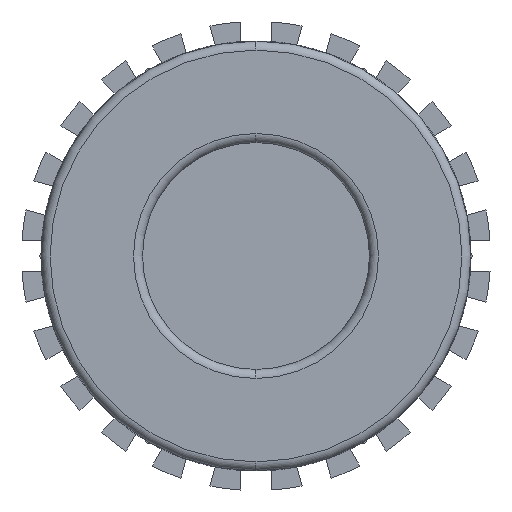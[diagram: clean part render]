
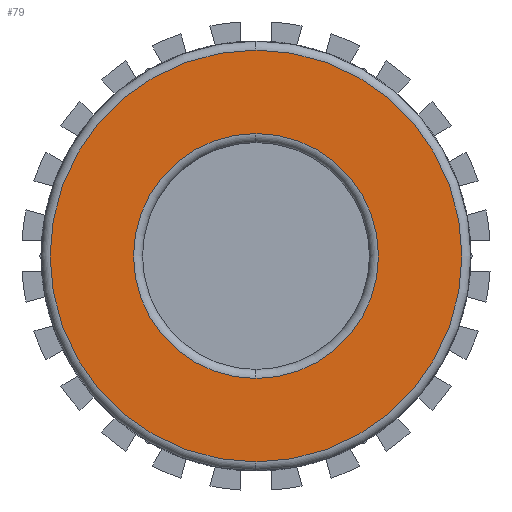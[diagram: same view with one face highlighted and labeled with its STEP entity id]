
A CAD part, left-side view. The second image highlights one B-rep face of the part: STEP entity #79.
In plain terms, the highlighted planar face has unit normal (-1, 0, 0).
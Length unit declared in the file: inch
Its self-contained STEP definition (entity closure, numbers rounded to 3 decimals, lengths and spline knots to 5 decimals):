
#79 = ADVANCED_FACE ( 'NONE', ( #3711, #3696 ), #2595, .F. ) ;
#163 = AXIS2_PLACEMENT_3D ( 'NONE', #2531, #2550, #2639 ) ;
#263 = AXIS2_PLACEMENT_3D ( 'NONE', #4182, #4174, #4183 ) ;
#273 = AXIS2_PLACEMENT_3D ( 'NONE', #2102, #2101, #2098 ) ;
#428 = AXIS2_PLACEMENT_3D ( 'NONE', #717, #718, #719 ) ;
#446 = AXIS2_PLACEMENT_3D ( 'NONE', #931, #932, #933 ) ;
#717 = CARTESIAN_POINT ( 'NONE',  ( -2.37, 0., 0. ) ) ;
#718 = DIRECTION ( 'NONE',  ( -1., 0., 0. ) ) ;
#719 = DIRECTION ( 'NONE',  ( 0., 0., -1. ) ) ;
#870 = CARTESIAN_POINT ( 'NONE',  ( -2.37, 0., -0.685 ) ) ;
#872 = CARTESIAN_POINT ( 'NONE',  ( -2.37, 0., 0.685 ) ) ;
#874 = CARTESIAN_POINT ( 'NONE',  ( -2.37, 0., -0.4075 ) ) ;
#880 = CARTESIAN_POINT ( 'NONE',  ( -2.37, 0., 0.4075 ) ) ;
#931 = CARTESIAN_POINT ( 'NONE',  ( -2.37, 0., 0. ) ) ;
#932 = DIRECTION ( 'NONE',  ( 1., 0., 0. ) ) ;
#933 = DIRECTION ( 'NONE',  ( 0., 0., -1. ) ) ;
#1650 = CIRCLE ( 'NONE', #428, 0.685 ) ;
#1745 = CIRCLE ( 'NONE', #446, 0.4075 ) ;
#2098 = DIRECTION ( 'NONE',  ( 0., 0., -1. ) ) ;
#2101 = DIRECTION ( 'NONE',  ( 1., 0., 0. ) ) ;
#2102 = CARTESIAN_POINT ( 'NONE',  ( -2.37, 0., 0. ) ) ;
#2531 = CARTESIAN_POINT ( 'NONE',  ( -2.37, 0., 0. ) ) ;
#2550 = DIRECTION ( 'NONE',  ( 1., 0., 0. ) ) ;
#2595 = PLANE ( 'NONE',  #163 ) ;
#2639 = DIRECTION ( 'NONE',  ( 0., 0., -1. ) ) ;
#2711 = CIRCLE ( 'NONE', #263, 0.685 ) ;
#2990 = CIRCLE ( 'NONE', #273, 0.4075 ) ;
#3045 = EDGE_LOOP ( 'NONE', ( #3319, #3339 ) ) ;
#3128 = ORIENTED_EDGE ( 'NONE', *, *, #3432, .T. ) ;
#3158 = EDGE_LOOP ( 'NONE', ( #3128, #3365 ) ) ;
#3319 = ORIENTED_EDGE ( 'NONE', *, *, #4124, .T. ) ;
#3339 = ORIENTED_EDGE ( 'NONE', *, *, #3410, .T. ) ;
#3365 = ORIENTED_EDGE ( 'NONE', *, *, #4454, .T. ) ;
#3410 = EDGE_CURVE ( 'NONE', #4351, #4348, #2711, .T. ) ;
#3432 = EDGE_CURVE ( 'NONE', #4364, #4407, #2990, .T. ) ;
#3696 = FACE_OUTER_BOUND ( 'NONE', #3045, .T. ) ;
#3711 = FACE_BOUND ( 'NONE', #3158, .T. ) ;
#4124 = EDGE_CURVE ( 'NONE', #4348, #4351, #1650, .T. ) ;
#4174 = DIRECTION ( 'NONE',  ( -1., 0., 0. ) ) ;
#4182 = CARTESIAN_POINT ( 'NONE',  ( -2.37, 0., 0. ) ) ;
#4183 = DIRECTION ( 'NONE',  ( 0., 0., -1. ) ) ;
#4348 = VERTEX_POINT ( 'NONE', #870 ) ;
#4351 = VERTEX_POINT ( 'NONE', #872 ) ;
#4364 = VERTEX_POINT ( 'NONE', #874 ) ;
#4407 = VERTEX_POINT ( 'NONE', #880 ) ;
#4454 = EDGE_CURVE ( 'NONE', #4407, #4364, #1745, .T. ) ;
